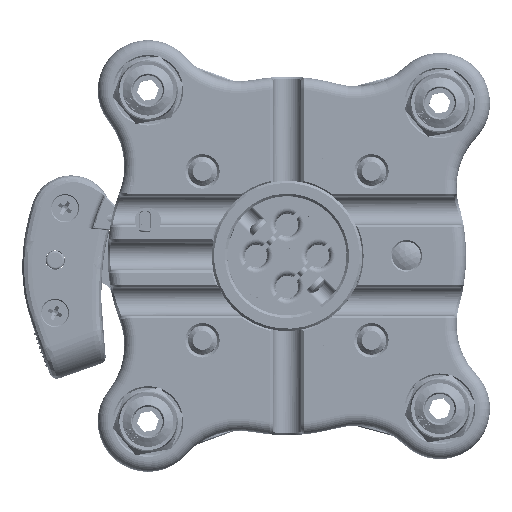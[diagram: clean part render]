
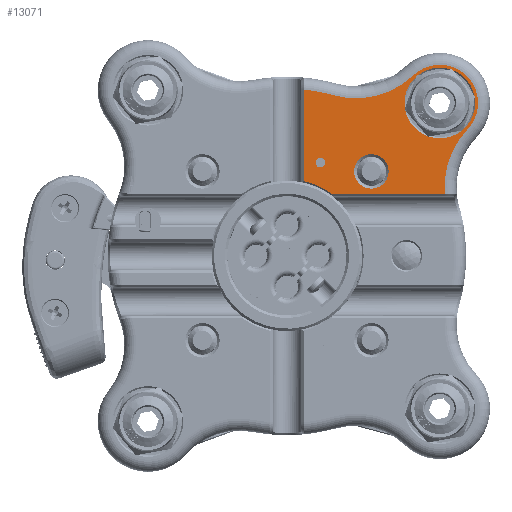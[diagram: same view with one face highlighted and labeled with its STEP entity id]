
A CAD part, top view. The second image highlights one B-rep face of the part: STEP entity #13071.
In plain terms, the highlighted planar face has unit normal (0, 0, 1).
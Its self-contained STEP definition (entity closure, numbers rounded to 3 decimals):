
#345 = ORIENTED_EDGE ( 'NONE', *, *, #86059, .T. ) ;
#1002 = AXIS2_PLACEMENT_3D ( 'NONE', #24439, #51536, #173443 ) ;
#1626 = VERTEX_POINT ( 'NONE', #71059 ) ;
#2260 = EDGE_CURVE ( 'NONE', #163668, #165943, #133743, .T. ) ;
#2375 = VECTOR ( 'NONE', #116094, 1000. ) ;
#4005 = DIRECTION ( 'NONE',  ( 1., 0., 0. ) ) ;
#4633 = EDGE_LOOP ( 'NONE', ( #57708, #17655 ) ) ;
#6076 = EDGE_CURVE ( 'NONE', #84450, #178489, #108762, .T. ) ;
#8721 = DIRECTION ( 'NONE',  ( 1., 0., 0. ) ) ;
#9431 = DIRECTION ( 'NONE',  ( 1., 0., 0. ) ) ;
#9937 = CARTESIAN_POINT ( 'NONE',  ( -4.987, 25.772, 0. ) ) ;
#11696 = CARTESIAN_POINT ( 'NONE',  ( 0., 0., 0. ) ) ;
#11870 = ORIENTED_EDGE ( 'NONE', *, *, #57871, .T. ) ;
#12493 = CARTESIAN_POINT ( 'NONE',  ( 8., 19.5, 0. ) ) ;
#13071 = ADVANCED_FACE ( 'NONE', ( #131855, #92114, #21720, #53230 ), #78572, .T. ) ;
#13120 = VERTEX_POINT ( 'NONE', #132744 ) ;
#14463 = ORIENTED_EDGE ( 'NONE', *, *, #56653, .T. ) ;
#15155 = EDGE_CURVE ( 'NONE', #153712, #83202, #35578, .T. ) ;
#16908 = CIRCLE ( 'NONE', #161253, 35. ) ;
#17655 = ORIENTED_EDGE ( 'NONE', *, *, #15155, .T. ) ;
#17877 = CARTESIAN_POINT ( 'NONE',  ( 37.797, 26.487, 0. ) ) ;
#21720 = FACE_BOUND ( 'NONE', #4633, .T. ) ;
#23451 = CARTESIAN_POINT ( 'NONE',  ( 32., 32., 0. ) ) ;
#23872 = CARTESIAN_POINT ( 'NONE',  ( 6., 19.5, 0. ) ) ;
#24439 = CARTESIAN_POINT ( 'NONE',  ( 32., 32., 0. ) ) ;
#24593 = EDGE_CURVE ( 'NONE', #105677, #64641, #176971, .T. ) ;
#25522 = CARTESIAN_POINT ( 'NONE',  ( 14.078, 17.678, 0. ) ) ;
#28162 = VERTEX_POINT ( 'NONE', #120200 ) ;
#29460 = ORIENTED_EDGE ( 'NONE', *, *, #62360, .T. ) ;
#30870 = AXIS2_PLACEMENT_3D ( 'NONE', #131601, #62987, #35892 ) ;
#32753 = AXIS2_PLACEMENT_3D ( 'NONE', #115044, #45545, #4005 ) ;
#33819 = AXIS2_PLACEMENT_3D ( 'NONE', #52901, #91788, #8721 ) ;
#35578 = CIRCLE ( 'NONE', #32753, 3.6 ) ;
#35892 = DIRECTION ( 'NONE',  ( 1., 0., 0. ) ) ;
#37418 = DIRECTION ( 'NONE',  ( 0., 0., 1. ) ) ;
#38307 = EDGE_CURVE ( 'NONE', #64641, #141449, #103660, .T. ) ;
#39621 = EDGE_CURVE ( 'NONE', #145499, #140653, #98063, .T. ) ;
#40668 = CARTESIAN_POINT ( 'NONE',  ( 24.6, 32., 0. ) ) ;
#41674 = CARTESIAN_POINT ( 'NONE',  ( 7., 19.5, 0. ) ) ;
#42309 = CIRCLE ( 'NONE', #30870, 3.6 ) ;
#43224 = EDGE_LOOP ( 'NONE', ( #48844, #29460 ) ) ;
#43284 = AXIS2_PLACEMENT_3D ( 'NONE', #41674, #151820, #101891 ) ;
#45545 = DIRECTION ( 'NONE',  ( 0., 0., -1. ) ) ;
#45770 = AXIS2_PLACEMENT_3D ( 'NONE', #65403, #37418, #9431 ) ;
#48844 = ORIENTED_EDGE ( 'NONE', *, *, #2260, .T. ) ;
#51536 = DIRECTION ( 'NONE',  ( 0., 0., -1. ) ) ;
#52901 = CARTESIAN_POINT ( 'NONE',  ( 14.428, 50.479, 0. ) ) ;
#53230 = FACE_BOUND ( 'NONE', #106926, .T. ) ;
#56274 = ORIENTED_EDGE ( 'NONE', *, *, #24593, .T. ) ;
#56653 = EDGE_CURVE ( 'NONE', #141449, #84450, #140232, .T. ) ;
#57708 = ORIENTED_EDGE ( 'NONE', *, *, #162129, .T. ) ;
#57871 = EDGE_CURVE ( 'NONE', #178489, #13120, #74172, .T. ) ;
#59492 = EDGE_CURVE ( 'NONE', #13120, #28162, #16908, .T. ) ;
#62360 = EDGE_CURVE ( 'NONE', #165943, #163668, #129878, .T. ) ;
#62987 = DIRECTION ( 'NONE',  ( 0., 0., -1. ) ) ;
#64641 = VERTEX_POINT ( 'NONE', #171026 ) ;
#65403 = CARTESIAN_POINT ( 'NONE',  ( 7., 19.5, 0. ) ) ;
#65905 = DIRECTION ( 'NONE',  ( 0., 0., 1. ) ) ;
#68936 = AXIS2_PLACEMENT_3D ( 'NONE', #157324, #102306, #86956 ) ;
#71059 = CARTESIAN_POINT ( 'NONE',  ( 3.473, 15.67, 0. ) ) ;
#72582 = DIRECTION ( 'NONE',  ( 1., 0., 0. ) ) ;
#72970 = AXIS2_PLACEMENT_3D ( 'NONE', #9937, #65905, #175153 ) ;
#74126 = AXIS2_PLACEMENT_3D ( 'NONE', #86577, #141622, #157853 ) ;
#74172 = CIRCLE ( 'NONE', #33819, 17.5 ) ;
#74393 = DIRECTION ( 'NONE',  ( 0., 0., -1. ) ) ;
#74584 = AXIS2_PLACEMENT_3D ( 'NONE', #11696, #127179, #141601 ) ;
#76669 = ORIENTED_EDGE ( 'NONE', *, *, #38307, .T. ) ;
#77484 = CIRCLE ( 'NONE', #45770, 1. ) ;
#78572 = PLANE ( 'NONE',  #72970 ) ;
#79365 = CARTESIAN_POINT ( 'NONE',  ( 21.278, 17.678, 0. ) ) ;
#83202 = VERTEX_POINT ( 'NONE', #79365 ) ;
#84450 = VERTEX_POINT ( 'NONE', #148214 ) ;
#86059 = EDGE_CURVE ( 'NONE', #1626, #105677, #126505, .T. ) ;
#86577 = CARTESIAN_POINT ( 'NONE',  ( 32., 32., 0. ) ) ;
#86956 = DIRECTION ( 'NONE',  ( 1., 0., 0. ) ) ;
#89946 = VECTOR ( 'NONE', #136308, 1000. ) ;
#90989 = ORIENTED_EDGE ( 'NONE', *, *, #59492, .T. ) ;
#91788 = DIRECTION ( 'NONE',  ( 0., 0., -1. ) ) ;
#92114 = FACE_BOUND ( 'NONE', #43224, .T. ) ;
#94569 = ORIENTED_EDGE ( 'NONE', *, *, #6076, .T. ) ;
#98063 = CIRCLE ( 'NONE', #43284, 1. ) ;
#101891 = DIRECTION ( 'NONE',  ( 1., 0., 0. ) ) ;
#102306 = DIRECTION ( 'NONE',  ( 0., 0., -1. ) ) ;
#102985 = DIRECTION ( 'NONE',  ( 0., 0., 1. ) ) ;
#103660 = CIRCLE ( 'NONE', #68936, 17.5 ) ;
#104332 = CARTESIAN_POINT ( 'NONE',  ( 39.4, 32., 0. ) ) ;
#105677 = VERTEX_POINT ( 'NONE', #172968 ) ;
#106926 = EDGE_LOOP ( 'NONE', ( #170404, #109170 ) ) ;
#108762 = CIRCLE ( 'NONE', #74126, 8. ) ;
#109170 = ORIENTED_EDGE ( 'NONE', *, *, #145504, .F. ) ;
#109258 = CARTESIAN_POINT ( 'NONE',  ( 33.085, 13., 0. ) ) ;
#112592 = AXIS2_PLACEMENT_3D ( 'NONE', #126760, #74393, #72582 ) ;
#113926 = CARTESIAN_POINT ( 'NONE',  ( 26.487, 37.797, 0. ) ) ;
#115044 = CARTESIAN_POINT ( 'NONE',  ( 17.678, 17.678, 0. ) ) ;
#116094 = DIRECTION ( 'NONE',  ( 0., -1., 0. ) ) ;
#120200 = CARTESIAN_POINT ( 'NONE',  ( 3.473, 34.827, 0. ) ) ;
#126505 = CIRCLE ( 'NONE', #74584, 16.05 ) ;
#126760 = CARTESIAN_POINT ( 'NONE',  ( 32., 32., 0. ) ) ;
#127179 = DIRECTION ( 'NONE',  ( 0., 0., -1. ) ) ;
#128758 = LINE ( 'NONE', #171168, #2375 ) ;
#129878 = CIRCLE ( 'NONE', #112592, 7.4 ) ;
#131601 = CARTESIAN_POINT ( 'NONE',  ( 17.678, 17.678, 0. ) ) ;
#131855 = FACE_OUTER_BOUND ( 'NONE', #169205, .T. ) ;
#132744 = CARTESIAN_POINT ( 'NONE',  ( 9.618, 33.652, 0. ) ) ;
#133743 = CIRCLE ( 'NONE', #1002, 7.4 ) ;
#136308 = DIRECTION ( 'NONE',  ( 1., 0., 0. ) ) ;
#140232 = CIRCLE ( 'NONE', #154666, 8. ) ;
#140653 = VERTEX_POINT ( 'NONE', #12493 ) ;
#141449 = VERTEX_POINT ( 'NONE', #17877 ) ;
#141601 = DIRECTION ( 'NONE',  ( 1., 0., 0. ) ) ;
#141622 = DIRECTION ( 'NONE',  ( 0., 0., 1. ) ) ;
#142918 = ORIENTED_EDGE ( 'NONE', *, *, #163761, .T. ) ;
#143577 = DIRECTION ( 'NONE',  ( 1., 0., 0. ) ) ;
#145499 = VERTEX_POINT ( 'NONE', #23872 ) ;
#145504 = EDGE_CURVE ( 'NONE', #140653, #145499, #77484, .T. ) ;
#148214 = CARTESIAN_POINT ( 'NONE',  ( 40., 32., 0. ) ) ;
#150416 = DIRECTION ( 'NONE',  ( 1., 0., 0. ) ) ;
#151820 = DIRECTION ( 'NONE',  ( 0., 0., 1. ) ) ;
#152196 = CARTESIAN_POINT ( 'NONE',  ( 0., 0., 0. ) ) ;
#153712 = VERTEX_POINT ( 'NONE', #25522 ) ;
#154666 = AXIS2_PLACEMENT_3D ( 'NONE', #23451, #102985, #143577 ) ;
#157324 = CARTESIAN_POINT ( 'NONE',  ( 50.479, 14.428, 0. ) ) ;
#157853 = DIRECTION ( 'NONE',  ( 1., 0., 0. ) ) ;
#161253 = AXIS2_PLACEMENT_3D ( 'NONE', #152196, #178416, #150416 ) ;
#162129 = EDGE_CURVE ( 'NONE', #83202, #153712, #42309, .T. ) ;
#163668 = VERTEX_POINT ( 'NONE', #104332 ) ;
#163761 = EDGE_CURVE ( 'NONE', #28162, #1626, #128758, .T. ) ;
#165943 = VERTEX_POINT ( 'NONE', #40668 ) ;
#169205 = EDGE_LOOP ( 'NONE', ( #90989, #142918, #345, #56274, #76669, #14463, #94569, #11870 ) ) ;
#170404 = ORIENTED_EDGE ( 'NONE', *, *, #39621, .F. ) ;
#171026 = CARTESIAN_POINT ( 'NONE',  ( 33.037, 13., 0. ) ) ;
#171168 = CARTESIAN_POINT ( 'NONE',  ( 3.473, 15.767, 0. ) ) ;
#172968 = CARTESIAN_POINT ( 'NONE',  ( 9.413, 13., 0. ) ) ;
#173443 = DIRECTION ( 'NONE',  ( 1., 0., 0. ) ) ;
#175153 = DIRECTION ( 'NONE',  ( 1., 0., 0. ) ) ;
#176971 = LINE ( 'NONE', #109258, #89946 ) ;
#178416 = DIRECTION ( 'NONE',  ( 0., 0., 1. ) ) ;
#178489 = VERTEX_POINT ( 'NONE', #113926 ) ;
